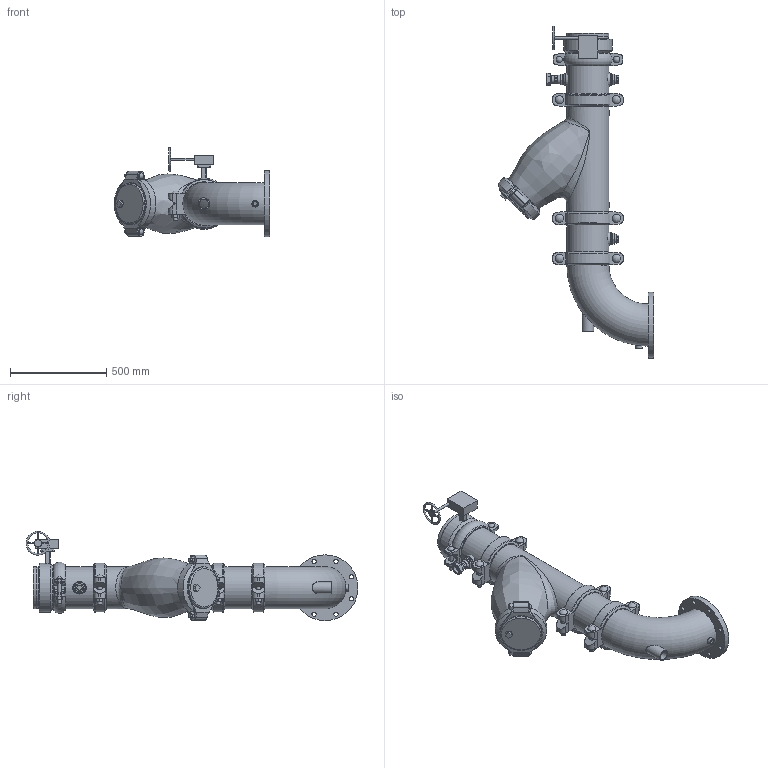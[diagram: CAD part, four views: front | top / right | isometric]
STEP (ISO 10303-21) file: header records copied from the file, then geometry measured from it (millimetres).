
FILE_DESCRIPTION(/* description */ ('VIC SVI PUMP DROP HORZ S/382 (OGSxFLG) (S/924-1.25)','CAx-IF Rec.Pracs.---Representation and Presentation of Product Manufacturing Information (PMI)---4.0---2014-10-13'),/* implementation_level */ '2;1');
FILE_NAME(/* name */ 'C:\Users\Vjadhav\AppData\Roaming\Autodesk\ApplicationPlugins\Victaulic.Temp\A115\Series 382 (OGSxFLG)_924 (1.25)_08.0x08.0 (200x200).stp',/* time_stamp */ '2022-03-17T12:20:32+06:00',/* author */ ('kkamble'),/* organization */ ('Victaulic'),/* preprocessor_version */ 'ST-DEVELOPER v17.2',/* originating_system */ 'Autodesk Inventor 2019',/* authorisation */ '');
FILE_SCHEMA (('AP242_MANAGED_MODEL_BASED_3D_ENGINEERING_MIM_LF { 1 0 10303 442 1 1 4 }'));
Length unit declared in the file: inch
Products named in the file (13): 382_924 (1.25)-08.0x08.0; PIPE-08.0; 107N-08.0; 732-08.0; 732-08.0_1; 07-08.0; 732-08.0_2; PIPE-08.3; 761-08.0; 177N-08.0; 924-04.0x01.25; 923-10.0x0.75; 100F-08.0
Assembly tree (15 placements, depth 3):
  382_924 (1.25)-08.0x08.0
    PIPE-08.0
    107N-08.0
    732-08.0
      732-08.0_1
      07-08.0
      732-08.0_2
    177N-08.0  x3
    PIPE-08.3
    761-08.0
    924-04.0x01.25
    923-10.0x0.75  x2
    100F-08.0
Bounding box: 809.75 x 1728.59 x 465.06 mm (x, y, z)
Volume: 23267004.3 mm3; surface area: 4319657 mm2
Topology: 14 solids, 18 shells, 861 faces, 2242 edges, 1490 vertices
Faces by surface type: plane 487, cylinder 277, torus 34, cone 27, bspline 26, sphere 10
Full cylindrical faces by diameter (mm): 8.636 x4, 12.446 x1, 12.7 x1, 19.05 x8, 20.93 x1, 21.336 x3, 22.225 x6, 22.352 x8, 22.86 x1, 26.67 x5, 32.537 x4, 34.29 x1, 38.1 x1, 38.608 x1, 39.125 x1, 42.164 x1, 42.85 x6, 45.974 x6, 48.26 x1, 48.514 x1, 55.118 x1, 55.626 x3, 60.96 x1, 76.2 x2, 190.5 x1, 202.463 x1, 202.717 x5, 202.819 x1, 206.375 x5, 214.401 x11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
Entity records: 24782 total; most frequent: CARTESIAN_POINT 7984, DIRECTION 3403, ORIENTED_EDGE 3188, EDGE_CURVE 1594, AXIS2_PLACEMENT_3D 1299, VERTEX_POINT 1067, LINE 805, VECTOR 805
